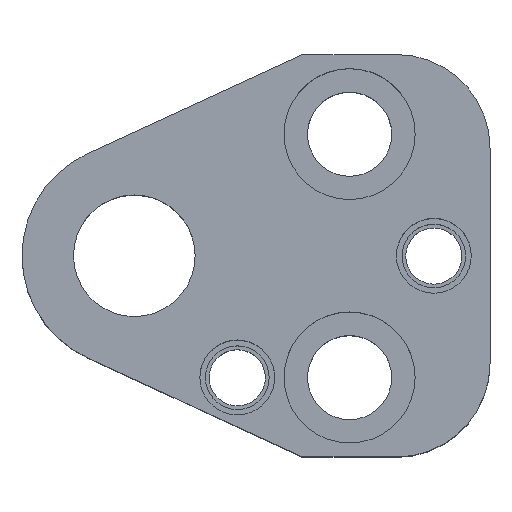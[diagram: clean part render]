
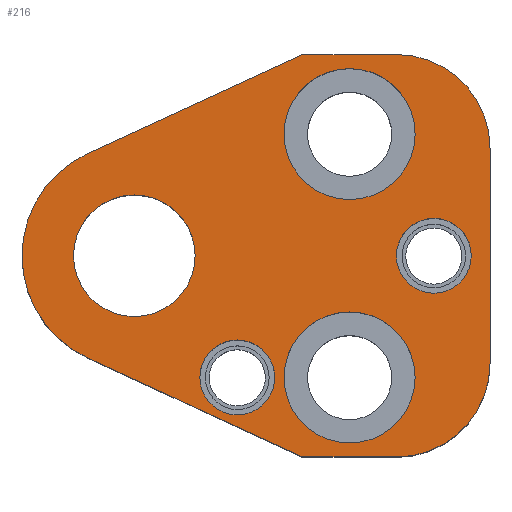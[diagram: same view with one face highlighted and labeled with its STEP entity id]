
A CAD part, top view. The second image highlights one B-rep face of the part: STEP entity #216.
In plain terms, the highlighted planar face has unit normal (0, 0, 1).
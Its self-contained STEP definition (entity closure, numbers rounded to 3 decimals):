
#104=FACE_BOUND('',#309,.T.);
#105=FACE_BOUND('',#310,.T.);
#106=FACE_BOUND('',#311,.T.);
#107=FACE_BOUND('',#312,.T.);
#108=FACE_BOUND('',#313,.T.);
#109=FACE_BOUND('',#314,.T.);
#148=CIRCLE('',#832,10.);
#150=CIRCLE('',#836,10.);
#160=CIRCLE('',#852,7.);
#162=CIRCLE('',#855,7.);
#164=CIRCLE('',#859,7.);
#166=CIRCLE('',#862,7.);
#168=CIRCLE('',#866,12.);
#169=CIRCLE('',#867,4.);
#170=CIRCLE('',#868,4.);
#171=CIRCLE('',#869,4.);
#172=CIRCLE('',#870,4.);
#173=CIRCLE('',#871,6.5);
#174=CIRCLE('',#872,6.5);
#216=ADVANCED_FACE('',(#104,#105,#106,#107,#108,#109),#248,.T.);
#248=PLANE('',#873);
#309=EDGE_LOOP('',(#409,#410,#411,#412,#413,#414,#415,#416));
#310=EDGE_LOOP('',(#417,#418));
#311=EDGE_LOOP('',(#419,#420));
#312=EDGE_LOOP('',(#421,#422));
#313=EDGE_LOOP('',(#423,#424));
#314=EDGE_LOOP('',(#425,#426));
#409=ORIENTED_EDGE('',*,*,#666,.T.);
#410=ORIENTED_EDGE('',*,*,#627,.T.);
#411=ORIENTED_EDGE('',*,*,#631,.T.);
#412=ORIENTED_EDGE('',*,*,#634,.T.);
#413=ORIENTED_EDGE('',*,*,#637,.T.);
#414=ORIENTED_EDGE('',*,*,#640,.T.);
#415=ORIENTED_EDGE('',*,*,#667,.T.);
#416=ORIENTED_EDGE('',*,*,#668,.T.);
#417=ORIENTED_EDGE('',*,*,#669,.F.);
#418=ORIENTED_EDGE('',*,*,#670,.F.);
#419=ORIENTED_EDGE('',*,*,#671,.F.);
#420=ORIENTED_EDGE('',*,*,#672,.F.);
#421=ORIENTED_EDGE('',*,*,#664,.F.);
#422=ORIENTED_EDGE('',*,*,#660,.F.);
#423=ORIENTED_EDGE('',*,*,#658,.F.);
#424=ORIENTED_EDGE('',*,*,#654,.F.);
#425=ORIENTED_EDGE('',*,*,#673,.T.);
#426=ORIENTED_EDGE('',*,*,#674,.T.);
#558=VERTEX_POINT('',#1171);
#559=VERTEX_POINT('',#1173);
#562=VERTEX_POINT('',#1180);
#564=VERTEX_POINT('',#1186);
#566=VERTEX_POINT('',#1192);
#568=VERTEX_POINT('',#1198);
#577=VERTEX_POINT('',#1227);
#578=VERTEX_POINT('',#1228);
#581=VERTEX_POINT('',#1240);
#582=VERTEX_POINT('',#1241);
#585=VERTEX_POINT('',#1253);
#586=VERTEX_POINT('',#1255);
#587=VERTEX_POINT('',#1258);
#588=VERTEX_POINT('',#1259);
#589=VERTEX_POINT('',#1262);
#590=VERTEX_POINT('',#1263);
#591=VERTEX_POINT('',#1266);
#592=VERTEX_POINT('',#1267);
#627=EDGE_CURVE('',#559,#558,#731,.T.);
#631=EDGE_CURVE('',#558,#562,#148,.T.);
#634=EDGE_CURVE('',#562,#564,#736,.T.);
#637=EDGE_CURVE('',#564,#566,#150,.T.);
#640=EDGE_CURVE('',#566,#568,#740,.T.);
#654=EDGE_CURVE('',#577,#578,#160,.T.);
#658=EDGE_CURVE('',#578,#577,#162,.T.);
#660=EDGE_CURVE('',#581,#582,#164,.T.);
#664=EDGE_CURVE('',#582,#581,#166,.T.);
#666=EDGE_CURVE('',#585,#559,#750,.T.);
#667=EDGE_CURVE('',#568,#586,#751,.T.);
#668=EDGE_CURVE('',#586,#585,#168,.T.);
#669=EDGE_CURVE('',#587,#588,#169,.T.);
#670=EDGE_CURVE('',#588,#587,#170,.T.);
#671=EDGE_CURVE('',#589,#590,#171,.T.);
#672=EDGE_CURVE('',#590,#589,#172,.T.);
#673=EDGE_CURVE('',#591,#592,#173,.T.);
#674=EDGE_CURVE('',#592,#591,#174,.T.);
#731=LINE('',#1172,#781);
#736=LINE('',#1187,#786);
#740=LINE('',#1199,#790);
#750=LINE('',#1252,#800);
#751=LINE('',#1254,#801);
#781=VECTOR('',#929,1.);
#786=VECTOR('',#942,1.);
#790=VECTOR('',#954,1.);
#800=VECTOR('',#1018,1.);
#801=VECTOR('',#1019,1.);
#832=AXIS2_PLACEMENT_3D('',#1181,#935,#936);
#836=AXIS2_PLACEMENT_3D('',#1193,#947,#948);
#852=AXIS2_PLACEMENT_3D('',#1226,#986,#987);
#855=AXIS2_PLACEMENT_3D('',#1235,#994,#995);
#859=AXIS2_PLACEMENT_3D('',#1239,#1002,#1003);
#862=AXIS2_PLACEMENT_3D('',#1248,#1010,#1011);
#866=AXIS2_PLACEMENT_3D('',#1256,#1020,#1021);
#867=AXIS2_PLACEMENT_3D('',#1257,#1022,#1023);
#868=AXIS2_PLACEMENT_3D('',#1260,#1024,#1025);
#869=AXIS2_PLACEMENT_3D('',#1261,#1026,#1027);
#870=AXIS2_PLACEMENT_3D('',#1264,#1028,#1029);
#871=AXIS2_PLACEMENT_3D('',#1265,#1030,#1031);
#872=AXIS2_PLACEMENT_3D('',#1268,#1032,#1033);
#873=AXIS2_PLACEMENT_3D('',#1269,#1034,#1035);
#929=DIRECTION('',(1.,0.,0.));
#935=DIRECTION('',(0.,0.,1.));
#936=DIRECTION('',(-0.707,0.707,0.));
#942=DIRECTION('',(0.,1.,0.));
#947=DIRECTION('',(0.,0.,1.));
#948=DIRECTION('',(-0.707,-0.707,0.));
#954=DIRECTION('',(-1.,0.,0.));
#986=DIRECTION('',(0.,0.,1.));
#987=DIRECTION('',(-1.,0.,0.));
#994=DIRECTION('',(0.,0.,1.));
#995=DIRECTION('',(1.,0.,0.));
#1002=DIRECTION('',(0.,0.,1.));
#1003=DIRECTION('',(-1.,0.,0.));
#1010=DIRECTION('',(0.,0.,1.));
#1011=DIRECTION('',(1.,0.,0.));
#1018=DIRECTION('',(0.908,-0.418,0.));
#1019=DIRECTION('',(-0.908,-0.418,0.));
#1020=DIRECTION('',(0.,0.,1.));
#1021=DIRECTION('',(1.,0.,0.));
#1022=DIRECTION('',(0.,0.,1.));
#1023=DIRECTION('',(1.,0.,0.));
#1024=DIRECTION('',(0.,0.,1.));
#1025=DIRECTION('',(-1.,0.,0.));
#1026=DIRECTION('',(0.,0.,1.));
#1027=DIRECTION('',(1.,0.,0.));
#1028=DIRECTION('',(0.,0.,1.));
#1029=DIRECTION('',(-1.,0.,0.));
#1030=DIRECTION('',(0.,0.,-1.));
#1031=DIRECTION('',(0.,-1.,0.));
#1032=DIRECTION('',(0.,0.,-1.));
#1033=DIRECTION('',(0.,1.,0.));
#1034=DIRECTION('',(0.,0.,1.));
#1035=DIRECTION('',(0.908,-0.418,0.));
#1171=CARTESIAN_POINT('',(28.,-21.5,30.));
#1172=CARTESIAN_POINT('',(18.,-21.5,30.));
#1173=CARTESIAN_POINT('',(18.,-21.5,30.));
#1180=CARTESIAN_POINT('',(38.,-11.5,30.));
#1181=CARTESIAN_POINT('',(28.,-11.5,30.));
#1186=CARTESIAN_POINT('',(38.,11.5,30.));
#1187=CARTESIAN_POINT('',(38.,11.5,30.));
#1192=CARTESIAN_POINT('',(28.,21.5,30.));
#1193=CARTESIAN_POINT('',(28.,11.5,30.));
#1198=CARTESIAN_POINT('',(18.,21.5,30.));
#1199=CARTESIAN_POINT('',(18.,21.5,30.));
#1226=CARTESIAN_POINT('',(23.,13.,30.));
#1227=CARTESIAN_POINT('',(23.,6.,30.));
#1228=CARTESIAN_POINT('',(23.,20.,30.));
#1235=CARTESIAN_POINT('',(23.,13.,30.));
#1239=CARTESIAN_POINT('',(23.,-13.,30.));
#1240=CARTESIAN_POINT('',(23.,-20.,30.));
#1241=CARTESIAN_POINT('',(23.,-6.,30.));
#1248=CARTESIAN_POINT('',(23.,-13.,30.));
#1252=CARTESIAN_POINT('',(18.,-21.5,30.));
#1253=CARTESIAN_POINT('',(-5.019,-10.9,30.));
#1254=CARTESIAN_POINT('',(18.,21.5,30.));
#1255=CARTESIAN_POINT('',(-5.019,10.9,30.));
#1256=CARTESIAN_POINT('',(0.,0.,30.));
#1257=CARTESIAN_POINT('',(32.,0.,30.));
#1258=CARTESIAN_POINT('',(32.,4.,30.));
#1259=CARTESIAN_POINT('',(32.,-4.,30.));
#1260=CARTESIAN_POINT('',(32.,0.,30.));
#1261=CARTESIAN_POINT('',(11.,-13.,30.));
#1262=CARTESIAN_POINT('',(11.,-9.,30.));
#1263=CARTESIAN_POINT('',(11.,-17.,30.));
#1264=CARTESIAN_POINT('',(11.,-13.,30.));
#1265=CARTESIAN_POINT('',(0.,0.,30.));
#1266=CARTESIAN_POINT('',(-6.5,0.,30.));
#1267=CARTESIAN_POINT('',(6.5,0.,30.));
#1268=CARTESIAN_POINT('',(0.,0.,30.));
#1269=CARTESIAN_POINT('',(-5.019,-10.9,30.));
